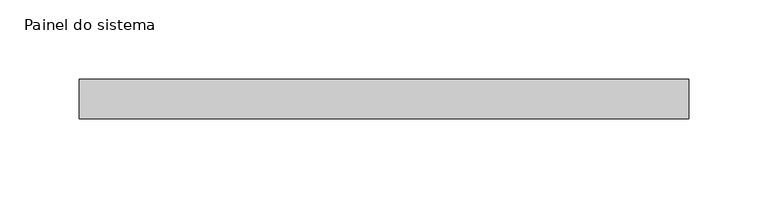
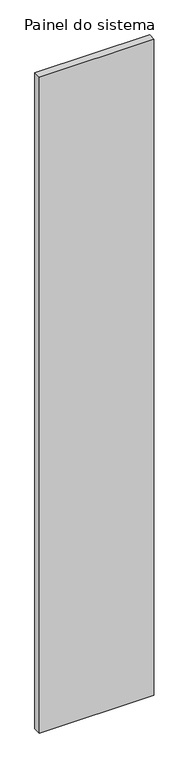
"""IFC4 building model written with IfcOpenShell, lengths in millimetres: plate geometry, Painel do sistema : Envidraçado."""

import ifcopenshell
import ifcopenshell.guid

model = None  # the IFC model being written
_history = None  # IfcOwnerHistory: only IFC2X3 demands one
_inside = {}  # id of a spatial element -> (the spatial element, [elements in it])
_under = {}  # id of a project, library or spatial element -> (it, [spatial elements below it])
_declared = {}  # id of a project -> (the project, [libraries it declares])
_typed = {}  # id of a type object -> (the type object, [elements of that type])
_made_of = {}  # id of a material, layer set ... -> (it, [elements and type objects made of it])


def new_model(schema):
    """Start an empty IFC model of exactly this schema.

    Asked for "IFC4X3", IfcOpenShell would pick the latest addendum, in which some entities
    have other attributes; the version numbers below select the first issue.
    IFC2X3 requires an IfcOwnerHistory on every rooted entity: one is made here for all.
    """
    global model, _history
    if schema == "IFC4X3":
        model = ifcopenshell.file(schema_version=(4, 3, 0, 0))
    else:
        model = ifcopenshell.file(schema=schema)
    _inside.clear()
    _under.clear()
    _declared.clear()
    _typed.clear()
    _made_of.clear()
    _history = None
    if model.schema == "IFC2X3":
        org = make("IfcOrganization", Name="unknown")
        user = make(
            "IfcPersonAndOrganization",
            ThePerson=make("IfcPerson", FamilyName="unknown"),
            TheOrganization=org,
        )
        app = make(
            "IfcApplication",
            ApplicationDeveloper=org,
            Version="unknown",
            ApplicationFullName="unknown",
            ApplicationIdentifier="unknown",
        )
        _history = make(
            "IfcOwnerHistory",
            OwningUser=user,
            OwningApplication=app,
            ChangeAction="ADDED",
            CreationDate=0,
        )
    return model


def make(cls, **values):
    """One entity of the class cls with the attributes given. An attribute that is None is left unset."""
    return model.create_entity(
        cls, **{name: value for name, value in values.items() if value is not None}
    )


def rooted(cls, **values):
    """An entity with a GlobalId (a new one), such as an element, a storey or a relation."""
    return make(cls, GlobalId=ifcopenshell.guid.new(), OwnerHistory=_history, **values)


def si_unit(unit_type, name, prefix=None):
    """IfcSIUnit, for example si_unit("LENGTHUNIT", "METRE", prefix="MILLI")."""
    return make("IfcSIUnit", UnitType=unit_type, Prefix=prefix, Name=name)


def assignment(units):
    """IfcUnitAssignment: the units of a project."""
    return None if units is None else make("IfcUnitAssignment", Units=units)


def point(xyz):
    """IfcCartesianPoint."""
    return None if xyz is None else make("IfcCartesianPoint", Coordinates=xyz)


def direction(xyz):
    """IfcDirection."""
    return None if xyz is None else make("IfcDirection", DirectionRatios=xyz)


def frame(location, z_axis=None, x_axis=None):
    """IfcAxis2Placement3D, a coordinate frame: its origin and axes. An axis left out is left unset."""
    return make(
        "IfcAxis2Placement3D",
        Location=point(location),
        Axis=direction(z_axis),
        RefDirection=direction(x_axis),
    )


def origin():
    """The frame at (0, 0, 0) with its axes left unset."""
    return frame((0.0, 0.0, 0.0))


def origin_with_axes():
    """The frame at (0, 0, 0) with the z axis (0, 0, 1) and the x axis (1, 0, 0) written out."""
    return frame((0.0, 0.0, 0.0), z_axis=(0.0, 0.0, 1.0), x_axis=(1.0, 0.0, 0.0))


def place(relative_to, where):
    """IfcLocalPlacement: puts the frame where relative to a parent placement (None: the world)."""
    return make(
        "IfcLocalPlacement", PlacementRelTo=relative_to, RelativePlacement=where
    )


def context(
    kind, dimensions, precision=None, world=None, true_north=None, identifier=None
):
    """IfcGeometricRepresentationContext, for example the 3D "Model" context."""
    return make(
        "IfcGeometricRepresentationContext",
        ContextIdentifier=identifier,
        ContextType=kind,
        CoordinateSpaceDimension=dimensions,
        Precision=precision,
        WorldCoordinateSystem=world,
        TrueNorth=true_north,
    )


def project(units=None, contexts=None):
    """IfcProject with its units and contexts."""
    return rooted(
        "IfcProject",
        Name="project",
        RepresentationContexts=contexts,
        UnitsInContext=assignment(units),
    )


def spatial(cls, under=None, at=None, **own):
    """A site, building, storey or space (cls), placed at a placement, below another one or the project."""
    s = rooted(cls, ObjectPlacement=at, **own)
    if under is not None:
        _under.setdefault(under.id(), (under, []))[1].append(s)
    return s


def polyline(points):
    """IfcPolyline through the points."""
    return make("IfcPolyline", Points=[point(p) for p in points])


def outline(outer, holes=None, kind="AREA"):
    """IfcArbitraryClosedProfileDef: a profile drawn as a closed curve; with holes, ...WithVoids."""
    if holes is None:
        return make("IfcArbitraryClosedProfileDef", ProfileType=kind, OuterCurve=outer)
    return make(
        "IfcArbitraryProfileDefWithVoids",
        ProfileType=kind,
        OuterCurve=outer,
        InnerCurves=holes,
    )


def extrude(swept, where, along, depth):
    """IfcExtrudedAreaSolid: the profile swept, set in the frame where, extruded along a direction by depth."""
    return make(
        "IfcExtrudedAreaSolid",
        SweptArea=swept,
        Position=where,
        ExtrudedDirection=direction(along),
        Depth=depth,
    )


def shape(context_of_items, identifier, shape_type, items):
    """IfcShapeRepresentation: the items that make up one representation, for example the "Body"."""
    return make(
        "IfcShapeRepresentation",
        ContextOfItems=context_of_items,
        RepresentationIdentifier=identifier,
        RepresentationType=shape_type,
        Items=items,
    )


def source(mapping_origin, context_of_items, identifier, shape_type, items):
    """IfcRepresentationMap: a shape defined once, which mapped items show again and again."""
    return make(
        "IfcRepresentationMap",
        MappingOrigin=mapping_origin,
        MappedRepresentation=shape(context_of_items, identifier, shape_type, items),
    )


def transform(
    local_origin,
    x_axis=None,
    y_axis=None,
    z_axis=None,
    scale=None,
    scale2=None,
    scale3=None,
    uniform=True,
):
    """IfcCartesianTransformationOperator3D, or its non-uniform kind. x_axis, y_axis, z_axis: its Axis1, 2, 3."""
    if uniform:
        return make(
            "IfcCartesianTransformationOperator3D",
            Axis1=direction(x_axis),
            Axis2=direction(y_axis),
            LocalOrigin=point(local_origin),
            Scale=scale,
            Axis3=direction(z_axis),
        )
    return make(
        "IfcCartesianTransformationOperator3DnonUniform",
        Axis1=direction(x_axis),
        Axis2=direction(y_axis),
        LocalOrigin=point(local_origin),
        Scale=scale,
        Axis3=direction(z_axis),
        Scale2=scale2,
        Scale3=scale3,
    )


def mapped(mapping_source, mapping_target):
    """IfcMappedItem: shows the shape of a source again, moved by a transform."""
    return make(
        "IfcMappedItem", MappingSource=mapping_source, MappingTarget=mapping_target
    )


def made_of(thing, what):
    """Note that an element or type object is made of a material, layer set ...; save() writes the relation."""
    if what is not None:
        _made_of.setdefault(what.id(), (what, []))[1].append(thing)
    return thing


def element(
    cls,
    number,
    at=None,
    inside=None,
    cuts=None,
    type_object=None,
    material=None,
    context=None,
    identifier="Body",
    shape_type=None,
    held_by="IfcProductDefinitionShape",
    body=None,
    shapes=None,
    **own,
):
    """One element of the class cls, such as IfcWall. Its Tag is "e" and its number.

    at: its placement. inside: the storey or other place that contains it. cuts: it is an
    opening in that element (IfcRelVoidsElement). A single representation is given by context,
    identifier, shape_type and body (its items); several are given by shapes. held_by: the class
    of the entity that holds the representations. save() writes the other relations.
    """
    e = rooted(cls, Tag="e%d" % number, ObjectPlacement=at, **own)
    if body is not None:
        shapes = [shape(context, identifier, shape_type, body)]
    if shapes is not None:
        e.Representation = make(held_by, Representations=shapes)
    if inside is not None:
        _inside.setdefault(inside.id(), (inside, []))[1].append(e)
    if cuts is not None:
        rooted(
            "IfcRelVoidsElement", RelatingBuildingElement=cuts, RelatedOpeningElement=e
        )
    if type_object is not None:
        _typed.setdefault(type_object.id(), (type_object, []))[1].append(e)
    return made_of(e, material)


def aggregate(whole, parts):
    """IfcRelAggregates: a whole, such as a stair, and the parts it consists of."""
    return rooted("IfcRelAggregates", RelatingObject=whole, RelatedObjects=parts)


def save(model, path):
    """Write the relations noted so far, then the file.

    IfcRelAggregates (storeys below a building ...), IfcRelContainedInSpatialStructure (elements
    in a storey), IfcRelDefinesByType, IfcRelAssociatesMaterial and IfcRelDeclares: one each for
    every whole, place, type object, material and project.
    """
    for whole, parts in _under.values():
        aggregate(whole, parts)
    for where, things in _inside.values():
        rooted(
            "IfcRelContainedInSpatialStructure",
            RelatedElements=things,
            RelatingStructure=where,
        )
    for kind, things in _typed.values():
        rooted("IfcRelDefinesByType", RelatedObjects=things, RelatingType=kind)
    for what, things in _made_of.values():
        rooted("IfcRelAssociatesMaterial", RelatedObjects=things, RelatingMaterial=what)
    for by, libraries in _declared.values():
        rooted("IfcRelDeclares", RelatingContext=by, RelatedDefinitions=libraries)
    model.write(path)


def painel_do_sistema_1222e25e(model_context):
    return source(origin(), model_context, "Body", "SweptSolid", [
        extrude(outline(polyline([(192.3718588, -49.5), (-192.3718588, -49.5), (-192.3718588, -24.5), (192.3718588, -24.5), (192.3718588, -49.5)])), origin_with_axes(), (0.0, 0.0, 1.0), 2325.0),
    ])


if __name__ == "__main__":
    model = new_model("IFC4")
    model_context = context("Model", 3, world=origin())
    ifc_project = project(units=[si_unit("LENGTHUNIT", "METRE", prefix="MILLI")], contexts=[model_context])
    site = spatial("IfcSite", under=ifc_project)
    building = spatial("IfcBuilding", under=site)
    placement = place(None, origin())
    painel_do_sistema_shape = painel_do_sistema_1222e25e(model_context)
    element("IfcPlate", 1, ObjectType="Painel do sistema : Envidraçado", at=placement, inside=building, context=model_context, shape_type="MappedRepresentation", body=[
        mapped(painel_do_sistema_shape, transform((0.0, 0.0, 0.0), x_axis=(1.0, 0.0, 0.0), y_axis=(0.0, 1.0, 0.0), z_axis=(0.0, 0.0, 1.0))),
    ])
    save(model, "model.ifc")
